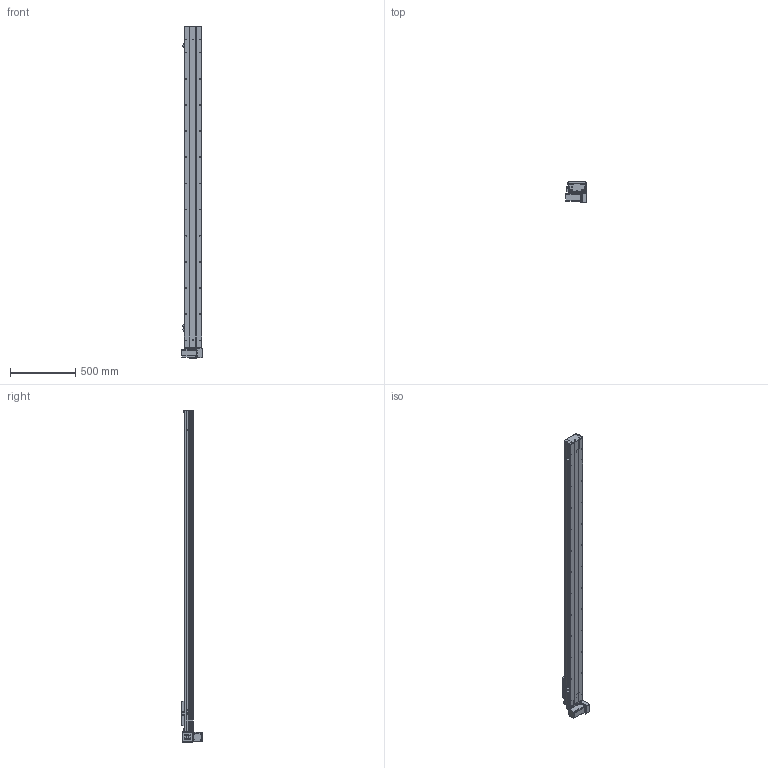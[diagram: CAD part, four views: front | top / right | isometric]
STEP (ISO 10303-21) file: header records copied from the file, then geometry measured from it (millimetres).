
FILE_DESCRIPTION (( 'STEP AP203' ), '1' );
FILE_NAME ('Y135CB-D90-S2150-BM-P400W.STEP', '2020-02-19T01:44:58', ( '微软用户' ), ( '微软中国' ), 'SwSTEP 2.0', 'SolidWorks 2017', '' );
FILE_SCHEMA (( 'CONFIG_CONTROL_DESIGN' ));
Length unit declared in the file: millimetre
Products named in the file (18): Y10B-耜蚾蟀諉啣----; C-詩湍揤踡え-陔; Y135CB-耜裔; Y135CB-D90-S2150-BM-P400W; 135CB--詩湍-CE; 135CB---遴掛极.-; Y100-135俋离換覜ん--; 35CB---喘謫眊楊擘啣; Y135C-陔俋离換覜結え-; 0B-埴倛裔啣; 5C--俋欶; 0B-源倛裔啣; C-雄赽釱--; 0B-萇儂楊擘啣; Y10B--々湍喘謫眊--666; san松下电机400不带刹车----; 00B-俋欶BM--; 5CB --掛极耜裔啣-
Assembly tree (21 placements, depth 2):
  Y135CB-D90-S2150-BM-P400W
    Y135CB-耜裔
    135CB---遴掛极.-
    35CB---喘謫眊楊擘啣
    0B-埴倛裔啣
    0B-源倛裔啣
    0B-萇儂楊擘啣
    san松下电机400不带刹车----
    5CB --掛极耜裔啣-  x2
    C-詩湍揤踡え-陔  x2
    135CB--詩湍-CE
    Y100-135俋离換覜ん--  x3
    Y135C-陔俋离換覜結え-
    5C--俋欶
    C-雄赽釱--
    Y10B--々湍喘謫眊--666
    00B-俋欶BM--
    Y10B-耜蚾蟀諉啣----
Bounding box: 157 x 163.3 x 2538 mm (x, y, z)
Volume: 7372843.7 mm3; surface area: 2915146.5 mm2
Topology: 21 solids, 21 shells, 969 faces, 2635 edges, 1746 vertices
Faces by surface type: cylinder 497, plane 456, cone 16
Entity records: 30665 total; most frequent: CARTESIAN_POINT 5180, DIRECTION 5079, ORIENTED_EDGE 4746, EDGE_CURVE 2373, AXIS2_PLACEMENT_3D 1861, VERTEX_POINT 1574, VECTOR 1357, LINE 1357
